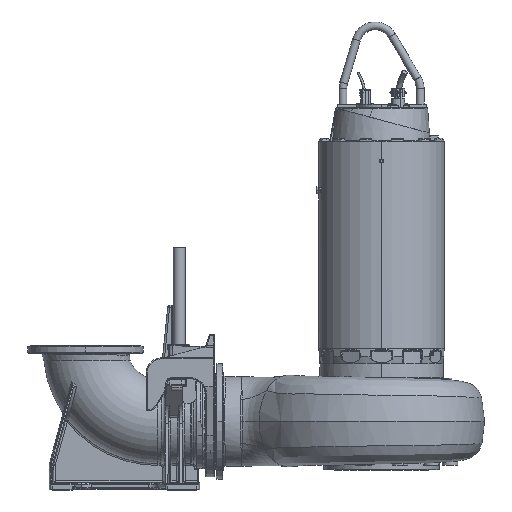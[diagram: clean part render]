
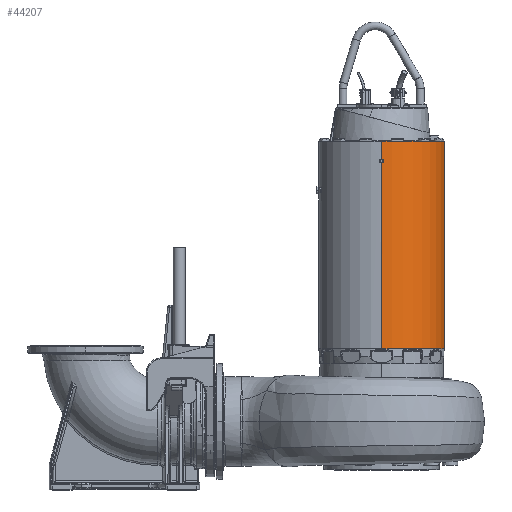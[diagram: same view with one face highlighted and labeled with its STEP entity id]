
A CAD part, top view. The second image highlights one B-rep face of the part: STEP entity #44207.
In plain terms, the highlighted cylindrical face has radius 322 mm (diameter 644 mm), a partial arc.
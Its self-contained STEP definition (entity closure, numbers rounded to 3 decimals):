
#952 = VERTEX_POINT ( 'NONE', #250544 ) ;
#4199 = VERTEX_POINT ( 'NONE', #52474 ) ;
#7500 = CARTESIAN_POINT ( 'NONE',  ( 0., 0., 0. ) ) ;
#9599 = CARTESIAN_POINT ( 'NONE',  ( 6.334, 932.687, 321.953 ) ) ;
#14788 = VECTOR ( 'NONE', #215297, 1000. ) ;
#21712 = VECTOR ( 'NONE', #132756, 1000. ) ;
#22637 = CARTESIAN_POINT ( 'NONE',  ( 9.5, 934.515, -321.86 ) ) ;
#25779 = ORIENTED_EDGE ( 'NONE', *, *, #257733, .T. ) ;
#26258 = CARTESIAN_POINT ( 'NONE',  ( 0., -20., -322. ) ) ;
#27095 = EDGE_CURVE ( 'NONE', #45179, #92235, #241224, .T. ) ;
#36264 = ORIENTED_EDGE ( 'NONE', *, *, #27095, .F. ) ;
#36350 = CARTESIAN_POINT ( 'NONE',  ( 9.5, 1180.349, 321.86 ) ) ;
#36538 = ORIENTED_EDGE ( 'NONE', *, *, #197803, .T. ) ;
#39909 = LINE ( 'NONE', #111324, #89279 ) ;
#40769 = CARTESIAN_POINT ( 'NONE',  ( 0., 0., -322. ) ) ;
#43917 = VERTEX_POINT ( 'NONE', #265536 ) ;
#44207 = ADVANCED_FACE ( 'NONE', ( #72430 ), #270900, .T. ) ;
#45179 = VERTEX_POINT ( 'NONE', #271009 ) ;
#47207 = CARTESIAN_POINT ( 'NONE',  ( 0., 950.97, -322. ) ) ;
#49371 = CARTESIAN_POINT ( 'NONE',  ( 9.5, 945.485, 321.86 ) ) ;
#52474 = CARTESIAN_POINT ( 'NONE',  ( 9.5, 934.515, 321.86 ) ) ;
#52781 = ORIENTED_EDGE ( 'NONE', *, *, #96300, .F. ) ;
#60721 = LINE ( 'NONE', #40769, #272407 ) ;
#64428 = LINE ( 'NONE', #36350, #120353 ) ;
#66437 = CARTESIAN_POINT ( 'NONE',  ( 9.5, 1180.349, -321.86 ) ) ;
#66642 = ORIENTED_EDGE ( 'NONE', *, *, #200188, .T. ) ;
#69858 = CARTESIAN_POINT ( 'NONE',  ( 0., 1040., -322. ) ) ;
#70174 = DIRECTION ( 'NONE',  ( 0., -1., 0. ) ) ;
#72430 = FACE_OUTER_BOUND ( 'NONE', #210638, .T. ) ;
#74535 = VERTEX_POINT ( 'NONE', #77683 ) ;
#76222 = CARTESIAN_POINT ( 'NONE',  ( 0., 1040., 0. ) ) ;
#77461 = DIRECTION ( 'NONE',  ( 0., -1., 0. ) ) ;
#77683 = CARTESIAN_POINT ( 'NONE',  ( 0., 929.03, 322. ) ) ;
#78667 = VERTEX_POINT ( 'NONE', #47207 ) ;
#89279 = VECTOR ( 'NONE', #261352, 1000. ) ;
#92235 = VERTEX_POINT ( 'NONE', #26258 ) ;
#92902 = AXIS2_PLACEMENT_3D ( 'NONE', #7500, #70174, #155056 ) ;
#93633 = EDGE_CURVE ( 'NONE', #952, #121581, #246566, .T. ) ;
#94612 = ORIENTED_EDGE ( 'NONE', *, *, #157085, .F. ) ;
#96300 = EDGE_CURVE ( 'NONE', #43917, #272965, #239683, .T. ) ;
#97270 = DIRECTION ( 'NONE',  ( 0., 0., -1. ) ) ;
#97674 = CARTESIAN_POINT ( 'NONE',  ( 6.334, 947.313, -321.953 ) ) ;
#104691 =( BOUNDED_CURVE ( )  B_SPLINE_CURVE ( 3, ( #260043, #111903, #175832, #49371 ),
 .UNSPECIFIED., .F., .F. ) 
 B_SPLINE_CURVE_WITH_KNOTS ( ( 4, 4 ),
 ( 1.571, 1.6 ),
 .UNSPECIFIED. ) 
 CURVE ( )  GEOMETRIC_REPRESENTATION_ITEM ( )  RATIONAL_B_SPLINE_CURVE ( ( 1., 1., 1., 1. ) ) 
 REPRESENTATION_ITEM ( '' )  );
#107264 = VERTEX_POINT ( 'NONE', #230764 ) ;
#111324 = CARTESIAN_POINT ( 'NONE',  ( 0., 0., 322. ) ) ;
#111637 = CARTESIAN_POINT ( 'NONE',  ( 9.5, 945.485, 321.86 ) ) ;
#111903 = CARTESIAN_POINT ( 'NONE',  ( 3.167, 949.141, 322. ) ) ;
#113343 = EDGE_CURVE ( 'NONE', #4199, #74535, #214798, .T. ) ;
#115082 = CARTESIAN_POINT ( 'NONE',  ( 0., 929.03, -322. ) ) ;
#115466 = CARTESIAN_POINT ( 'NONE',  ( 3.167, 930.859, 322. ) ) ;
#117180 = CARTESIAN_POINT ( 'NONE',  ( 0., 950.97, -322. ) ) ;
#120353 = VECTOR ( 'NONE', #161832, 1000. ) ;
#121581 = VERTEX_POINT ( 'NONE', #161894 ) ;
#122116 = EDGE_CURVE ( 'NONE', #92235, #107264, #270177, .T. ) ;
#123914 = AXIS2_PLACEMENT_3D ( 'NONE', #204242, #77461, #225511 ) ;
#128008 = ORIENTED_EDGE ( 'NONE', *, *, #218083, .F. ) ;
#128843 =( BOUNDED_CURVE ( )  B_SPLINE_CURVE ( 3, ( #117180, #139394, #97674, #245924 ),
 .UNSPECIFIED., .F., .F. ) 
 B_SPLINE_CURVE_WITH_KNOTS ( ( 4, 4 ),
 ( 1.571, 1.6 ),
 .UNSPECIFIED. ) 
 CURVE ( )  GEOMETRIC_REPRESENTATION_ITEM ( )  RATIONAL_B_SPLINE_CURVE ( ( 1., 1., 1., 1. ) ) 
 REPRESENTATION_ITEM ( '' )  );
#132509 = ORIENTED_EDGE ( 'NONE', *, *, #182016, .T. ) ;
#132725 = CARTESIAN_POINT ( 'NONE',  ( 6.334, 932.687, -321.953 ) ) ;
#132756 = DIRECTION ( 'NONE',  ( 0., -1., 0. ) ) ;
#137224 = CIRCLE ( 'NONE', #238504, 322. ) ;
#139394 = CARTESIAN_POINT ( 'NONE',  ( 3.167, 949.141, -322. ) ) ;
#151883 = ORIENTED_EDGE ( 'NONE', *, *, #122116, .F. ) ;
#155056 = DIRECTION ( 'NONE',  ( 0., 0., -1. ) ) ;
#157085 = EDGE_CURVE ( 'NONE', #259339, #78667, #60721, .T. ) ;
#161832 = DIRECTION ( 'NONE',  ( 0., -1., 0. ) ) ;
#161894 = CARTESIAN_POINT ( 'NONE',  ( 0., 950.97, 322. ) ) ;
#174584 = VERTEX_POINT ( 'NONE', #111637 ) ;
#175359 = CARTESIAN_POINT ( 'NONE',  ( 9.5, 934.515, -321.86 ) ) ;
#175832 = CARTESIAN_POINT ( 'NONE',  ( 6.334, 947.313, 321.953 ) ) ;
#177569 = CARTESIAN_POINT ( 'NONE',  ( 9.5, 934.515, 321.86 ) ) ;
#182016 = EDGE_CURVE ( 'NONE', #174584, #4199, #64428, .T. ) ;
#184841 = VECTOR ( 'NONE', #235127, 1000. ) ;
#192153 = ORIENTED_EDGE ( 'NONE', *, *, #113343, .T. ) ;
#197496 = ORIENTED_EDGE ( 'NONE', *, *, #93633, .T. ) ;
#197803 = EDGE_CURVE ( 'NONE', #74535, #107264, #39909, .T. ) ;
#200188 = EDGE_CURVE ( 'NONE', #121581, #174584, #104691, .T. ) ;
#204242 = CARTESIAN_POINT ( 'NONE',  ( 0., -20., 0. ) ) ;
#206714 =( BOUNDED_CURVE ( )  B_SPLINE_CURVE ( 3, ( #175359, #132725, #242059, #115082 ),
 .UNSPECIFIED., .F., .T. ) 
 B_SPLINE_CURVE_WITH_KNOTS ( ( 4, 4 ),
 ( 1.541, 1.571 ),
 .UNSPECIFIED. ) 
 CURVE ( )  GEOMETRIC_REPRESENTATION_ITEM ( )  RATIONAL_B_SPLINE_CURVE ( ( 1., 1., 1., 1. ) ) 
 REPRESENTATION_ITEM ( '' )  );
#210638 = EDGE_LOOP ( 'NONE', ( #25779, #197496, #66642, #132509, #192153, #36538, #151883, #36264, #211538, #52781, #128008, #94612 ) ) ;
#211538 = ORIENTED_EDGE ( 'NONE', *, *, #256479, .F. ) ;
#214798 =( BOUNDED_CURVE ( )  B_SPLINE_CURVE ( 3, ( #177569, #9599, #115466, #263623 ),
 .UNSPECIFIED., .F., .F. ) 
 B_SPLINE_CURVE_WITH_KNOTS ( ( 4, 4 ),
 ( 1.541, 1.571 ),
 .UNSPECIFIED. ) 
 CURVE ( )  GEOMETRIC_REPRESENTATION_ITEM ( )  RATIONAL_B_SPLINE_CURVE ( ( 1., 1., 1., 1. ) ) 
 REPRESENTATION_ITEM ( '' )  );
#215297 = DIRECTION ( 'NONE',  ( 0., -1., 0. ) ) ;
#218083 = EDGE_CURVE ( 'NONE', #78667, #43917, #128843, .T. ) ;
#224275 = DIRECTION ( 'NONE',  ( 0., -1., 0. ) ) ;
#225511 = DIRECTION ( 'NONE',  ( 1., 0., 0. ) ) ;
#230764 = CARTESIAN_POINT ( 'NONE',  ( 0., -20., 322. ) ) ;
#231183 = DIRECTION ( 'NONE',  ( 0., -1., 0. ) ) ;
#235127 = DIRECTION ( 'NONE',  ( 0., -1., 0. ) ) ;
#238504 = AXIS2_PLACEMENT_3D ( 'NONE', #76222, #224275, #97270 ) ;
#239683 = LINE ( 'NONE', #66437, #14788 ) ;
#241224 = LINE ( 'NONE', #256334, #184841 ) ;
#242059 = CARTESIAN_POINT ( 'NONE',  ( 3.167, 930.859, -322. ) ) ;
#245924 = CARTESIAN_POINT ( 'NONE',  ( 9.5, 945.485, -321.86 ) ) ;
#246566 = LINE ( 'NONE', #259587, #21712 ) ;
#250544 = CARTESIAN_POINT ( 'NONE',  ( 0., 1040., 322. ) ) ;
#256334 = CARTESIAN_POINT ( 'NONE',  ( 0., 0., -322. ) ) ;
#256479 = EDGE_CURVE ( 'NONE', #272965, #45179, #206714, .T. ) ;
#257733 = EDGE_CURVE ( 'NONE', #259339, #952, #137224, .T. ) ;
#259339 = VERTEX_POINT ( 'NONE', #69858 ) ;
#259587 = CARTESIAN_POINT ( 'NONE',  ( 0., 0., 322. ) ) ;
#260043 = CARTESIAN_POINT ( 'NONE',  ( 0., 950.97, 322. ) ) ;
#261352 = DIRECTION ( 'NONE',  ( 0., -1., 0. ) ) ;
#263623 = CARTESIAN_POINT ( 'NONE',  ( 0., 929.03, 322. ) ) ;
#265536 = CARTESIAN_POINT ( 'NONE',  ( 9.5, 945.485, -321.86 ) ) ;
#270177 = CIRCLE ( 'NONE', #123914, 322. ) ;
#270900 = CYLINDRICAL_SURFACE ( 'NONE', #92902, 322. ) ;
#271009 = CARTESIAN_POINT ( 'NONE',  ( 0., 929.03, -322. ) ) ;
#272407 = VECTOR ( 'NONE', #231183, 1000. ) ;
#272965 = VERTEX_POINT ( 'NONE', #22637 ) ;
